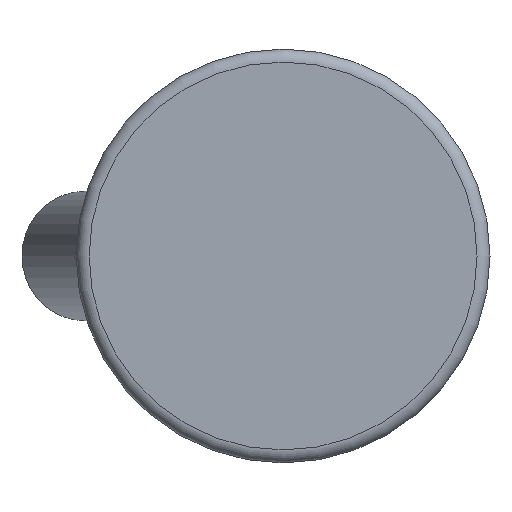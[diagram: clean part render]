
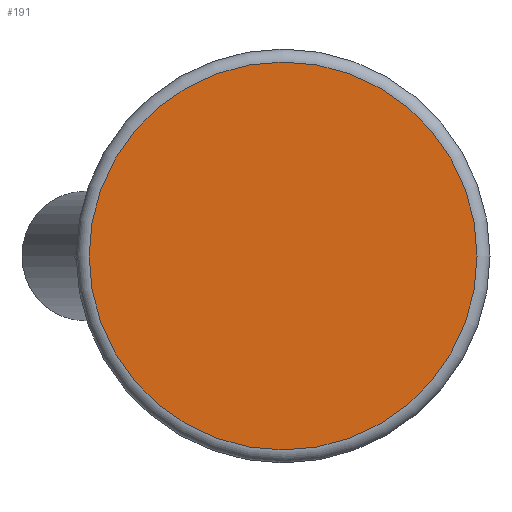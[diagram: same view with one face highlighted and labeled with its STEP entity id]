
A CAD part, front view. The second image highlights one B-rep face of the part: STEP entity #191.
In plain terms, the highlighted planar face has unit normal (0, -1, 0).
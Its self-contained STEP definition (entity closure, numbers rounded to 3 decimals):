
#191 = ADVANCED_FACE( '', ( #371 ), #372, .F. );
#371 = FACE_OUTER_BOUND( '', #553, .T. );
#372 = PLANE( '', #554 );
#553 = EDGE_LOOP( '', ( #827 ) );
#554 = AXIS2_PLACEMENT_3D( '', #828, #829, #830 );
#827 = ORIENTED_EDGE( '', *, *, #1104, .T. );
#828 = CARTESIAN_POINT( '', ( 15., 0., 0. ) );
#829 = DIRECTION( '', ( 0., 1., 0. ) );
#830 = DIRECTION( '', ( 0., 0., 1. ) );
#1104 = EDGE_CURVE( '', #1295, #1295, #1296, .T. );
#1295 = VERTEX_POINT( '', #1708 );
#1296 = CIRCLE( '', #1709, 15. );
#1708 = CARTESIAN_POINT( '', ( 0., 0., -15. ) );
#1709 = AXIS2_PLACEMENT_3D( '', #1898, #1899, #1900 );
#1898 = CARTESIAN_POINT( '', ( 0., 0., 0. ) );
#1899 = DIRECTION( '', ( 0., -1., 0. ) );
#1900 = DIRECTION( '', ( 0., 0., -1. ) );
